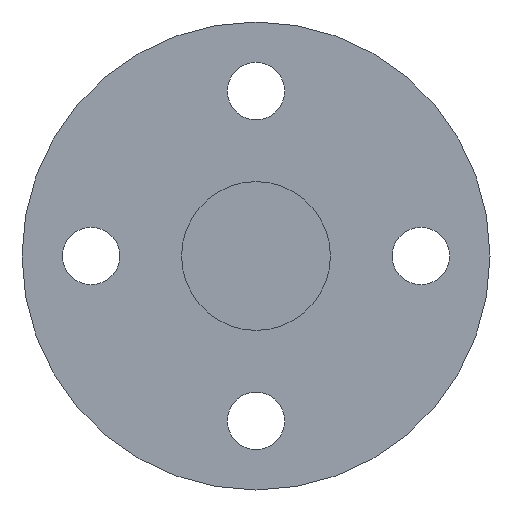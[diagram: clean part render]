
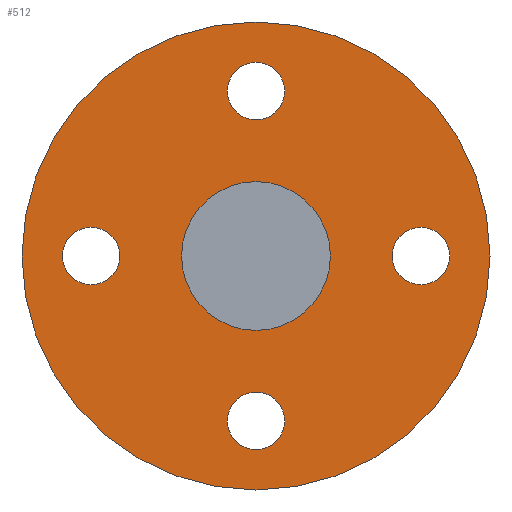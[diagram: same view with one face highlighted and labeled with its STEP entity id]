
A CAD part, left-side view. The second image highlights one B-rep face of the part: STEP entity #512.
In plain terms, the highlighted planar face has unit normal (-1, 0, 0).
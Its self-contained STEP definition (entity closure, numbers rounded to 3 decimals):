
#401=CARTESIAN_POINT('',(135.0,15.5,-2.7));
#402=VERTEX_POINT('',#401);
#403=CARTESIAN_POINT('',(135.0,15.5,0.));
#404=DIRECTION('',(1.0,0.0,0.0));
#405=DIRECTION('',(0.0,0.0,-1.0));
#406=AXIS2_PLACEMENT_3D('',#403,#404,#405);
#407=CIRCLE('',#406,2.7);
#408=EDGE_CURVE('',#402,#402,#407,.T.);
#421=CARTESIAN_POINT('',(135.0,-2.7,-15.5));
#422=VERTEX_POINT('',#421);
#423=CARTESIAN_POINT('',(135.0,0.,-15.5));
#424=DIRECTION('',(1.0,0.0,0.0));
#425=DIRECTION('',(0.0,-1.0,0.0));
#426=AXIS2_PLACEMENT_3D('',#423,#424,#425);
#427=CIRCLE('',#426,2.7);
#428=EDGE_CURVE('',#422,#422,#427,.T.);
#441=CARTESIAN_POINT('',(135.0,-15.5,2.7));
#442=VERTEX_POINT('',#441);
#443=CARTESIAN_POINT('',(135.0,-15.5,0.));
#444=DIRECTION('',(1.0,0.0,0.0));
#445=DIRECTION('',(0.0,0.0,1.0));
#446=AXIS2_PLACEMENT_3D('',#443,#444,#445);
#447=CIRCLE('',#446,2.7);
#448=EDGE_CURVE('',#442,#442,#447,.T.);
#461=CARTESIAN_POINT('',(135.0,2.7,15.5));
#462=VERTEX_POINT('',#461);
#463=CARTESIAN_POINT('',(135.0,0.0,15.5));
#464=DIRECTION('',(1.0,0.0,0.0));
#465=DIRECTION('',(0.0,1.0,0.0));
#466=AXIS2_PLACEMENT_3D('',#463,#464,#465);
#467=CIRCLE('',#466,2.7);
#468=EDGE_CURVE('',#462,#462,#467,.T.);
#473=CARTESIAN_POINT('',(135.0,0.0,14.5));
#474=DIRECTION('',(-1.0,0.0,0.0));
#475=DIRECTION('',(0.0,0.0,1.0));
#476=AXIS2_PLACEMENT_3D('',#473,#474,#475);
#477=PLANE('',#476);
#478=CARTESIAN_POINT('',(135.0,0.0,22.0));
#479=VERTEX_POINT('',#478);
#480=CARTESIAN_POINT('',(135.0,0.0,0.0));
#481=DIRECTION('',(-1.0,0.0,0.0));
#482=DIRECTION('',(0.0,0.0,1.0));
#483=AXIS2_PLACEMENT_3D('',#480,#481,#482);
#484=CIRCLE('',#483,22.0);
#485=EDGE_CURVE('',#479,#479,#484,.T.);
#486=ORIENTED_EDGE('',*,*,#485,.T.);
#487=EDGE_LOOP('',(#486));
#488=FACE_OUTER_BOUND('',#487,.T.);
#489=ORIENTED_EDGE('',*,*,#408,.T.);
#490=EDGE_LOOP('',(#489));
#491=FACE_BOUND('',#490,.T.);
#492=ORIENTED_EDGE('',*,*,#428,.T.);
#493=EDGE_LOOP('',(#492));
#494=FACE_BOUND('',#493,.T.);
#495=ORIENTED_EDGE('',*,*,#448,.T.);
#496=EDGE_LOOP('',(#495));
#497=FACE_BOUND('',#496,.T.);
#498=ORIENTED_EDGE('',*,*,#468,.T.);
#499=EDGE_LOOP('',(#498));
#500=FACE_BOUND('',#499,.T.);
#501=CARTESIAN_POINT('',(135.0,0.0,7.));
#502=VERTEX_POINT('',#501);
#503=CARTESIAN_POINT('',(135.0,0.0,0.0));
#504=DIRECTION('',(-1.0,0.0,0.0));
#505=DIRECTION('',(0.0,0.0,1.0));
#506=AXIS2_PLACEMENT_3D('',#503,#504,#505);
#507=CIRCLE('',#506,7.);
#508=EDGE_CURVE('',#502,#502,#507,.T.);
#509=ORIENTED_EDGE('',*,*,#508,.F.);
#510=EDGE_LOOP('',(#509));
#511=FACE_BOUND('',#510,.T.);
#512=ADVANCED_FACE('',(#488,#491,#494,#497,#500,#511),#477,.T.);
